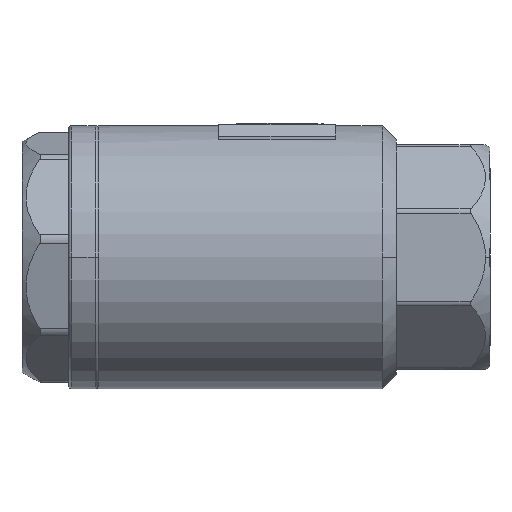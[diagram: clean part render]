
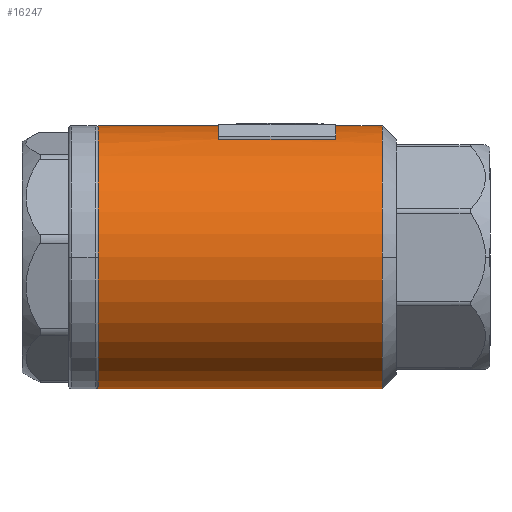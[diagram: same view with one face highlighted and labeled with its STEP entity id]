
A CAD part, front view. The second image highlights one B-rep face of the part: STEP entity #16247.
In plain terms, the highlighted cylindrical face has radius 22.5 mm (diameter 45 mm), a partial arc.
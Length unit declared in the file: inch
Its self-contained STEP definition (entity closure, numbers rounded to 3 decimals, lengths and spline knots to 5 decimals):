
#362 = DIRECTION ( 'NONE',  ( -1., 0., 0. ) ) ;
#480 = AXIS2_PLACEMENT_3D ( 'NONE', #17925, #10908, #13201 ) ;
#542 = ORIENTED_EDGE ( 'NONE', *, *, #10546, .T. ) ;
#936 = CIRCLE ( 'NONE', #22789, 0.88583 ) ;
#1316 = EDGE_CURVE ( 'NONE', #13956, #25042, #24974, .T. ) ;
#1995 = CARTESIAN_POINT ( 'NONE',  ( -1.35769, -0.52888, 0.88583 ) ) ;
#2443 = ORIENTED_EDGE ( 'NONE', *, *, #13747, .T. ) ;
#2459 = CARTESIAN_POINT ( 'NONE',  ( 0.24073, -0.92258, 0.79353 ) ) ;
#2971 = ORIENTED_EDGE ( 'NONE', *, *, #1316, .T. ) ;
#3535 = LINE ( 'NONE', #25676, #19208 ) ;
#3720 = DIRECTION ( 'NONE',  ( 0., 0., 1. ) ) ;
#3777 = CIRCLE ( 'NONE', #26130, 0.88583 ) ;
#3921 = CARTESIAN_POINT ( 'NONE',  ( -2.20685, -0.52888, 0.88583 ) ) ;
#4608 = FACE_OUTER_BOUND ( 'NONE', #13928, .T. ) ;
#4805 = AXIS2_PLACEMENT_3D ( 'NONE', #28535, #16307, #13858 ) ;
#5304 = CARTESIAN_POINT ( 'NONE',  ( 0.55569, -0.52888, 0.88583 ) ) ;
#5584 = LINE ( 'NONE', #22829, #13396 ) ;
#8789 = VERTEX_POINT ( 'NONE', #1995 ) ;
#8960 = EDGE_CURVE ( 'NONE', #8789, #11776, #936, .T. ) ;
#9474 = CARTESIAN_POINT ( 'NONE',  ( -2.20685, -0.52888, 0. ) ) ;
#9660 = ORIENTED_EDGE ( 'NONE', *, *, #8960, .T. ) ;
#10184 = LINE ( 'NONE', #12288, #24535 ) ;
#10546 = EDGE_CURVE ( 'NONE', #12311, #26925, #11874, .T. ) ;
#10908 = DIRECTION ( 'NONE',  ( -1., 0., 0. ) ) ;
#11098 = DIRECTION ( 'NONE',  ( 1., 0., 0. ) ) ;
#11404 = CARTESIAN_POINT ( 'NONE',  ( -0.54667, -0.52888, 0.88583 ) ) ;
#11518 = EDGE_CURVE ( 'NONE', #13233, #19078, #5584, .T. ) ;
#11776 = VERTEX_POINT ( 'NONE', #25752 ) ;
#11874 = CIRCLE ( 'NONE', #480, 0.88583 ) ;
#11945 = AXIS2_PLACEMENT_3D ( 'NONE', #14771, #19496, #29450 ) ;
#12288 = CARTESIAN_POINT ( 'NONE',  ( -2.20685, -0.52888, -0.88583 ) ) ;
#12311 = VERTEX_POINT ( 'NONE', #25679 ) ;
#12645 = CARTESIAN_POINT ( 'NONE',  ( 0.55569, -1.4147, 0. ) ) ;
#13201 = DIRECTION ( 'NONE',  ( 0., 0., 1. ) ) ;
#13233 = VERTEX_POINT ( 'NONE', #5304 ) ;
#13396 = VECTOR ( 'NONE', #362, 39.37008 ) ;
#13747 = EDGE_CURVE ( 'NONE', #17660, #12311, #3535, .T. ) ;
#13858 = DIRECTION ( 'NONE',  ( 0., 0., 1. ) ) ;
#13928 = EDGE_LOOP ( 'NONE', ( #19512, #2971, #25001, #24580, #25464, #2443, #542, #25151, #9660 ) ) ;
#13956 = VERTEX_POINT ( 'NONE', #16678 ) ;
#14091 = DIRECTION ( 'NONE',  ( 1., 0., 0. ) ) ;
#14343 = CYLINDRICAL_SURFACE ( 'NONE', #29743, 0.88583 ) ;
#14771 = CARTESIAN_POINT ( 'NONE',  ( 0.55569, -0.52888, 0. ) ) ;
#16247 = ADVANCED_FACE ( 'NONE', ( #4608 ), #14343, .T. ) ;
#16307 = DIRECTION ( 'NONE',  ( -1., 0., 0. ) ) ;
#16678 = CARTESIAN_POINT ( 'NONE',  ( 0.55569, -0.52888, -0.88583 ) ) ;
#16949 = DIRECTION ( 'NONE',  ( -1., 0., 0. ) ) ;
#17660 = VERTEX_POINT ( 'NONE', #2459 ) ;
#17925 = CARTESIAN_POINT ( 'NONE',  ( -0.54667, -0.52888, 0. ) ) ;
#17955 = CARTESIAN_POINT ( 'NONE',  ( 0.24073, -0.52888, 0. ) ) ;
#19078 = VERTEX_POINT ( 'NONE', #19273 ) ;
#19208 = VECTOR ( 'NONE', #30399, 39.37008 ) ;
#19273 = CARTESIAN_POINT ( 'NONE',  ( 0.24073, -0.52888, 0.88583 ) ) ;
#19496 = DIRECTION ( 'NONE',  ( -1., 0., 0. ) ) ;
#19512 = ORIENTED_EDGE ( 'NONE', *, *, #28437, .F. ) ;
#21005 = LINE ( 'NONE', #3921, #21985 ) ;
#21985 = VECTOR ( 'NONE', #29138, 39.37008 ) ;
#22789 = AXIS2_PLACEMENT_3D ( 'NONE', #25858, #14091, #3720 ) ;
#22829 = CARTESIAN_POINT ( 'NONE',  ( -2.20685, -0.52888, 0.88583 ) ) ;
#24535 = VECTOR ( 'NONE', #30221, 39.37008 ) ;
#24580 = ORIENTED_EDGE ( 'NONE', *, *, #11518, .T. ) ;
#24974 = CIRCLE ( 'NONE', #11945, 0.88583 ) ;
#25001 = ORIENTED_EDGE ( 'NONE', *, *, #31698, .T. ) ;
#25042 = VERTEX_POINT ( 'NONE', #12645 ) ;
#25151 = ORIENTED_EDGE ( 'NONE', *, *, #30217, .T. ) ;
#25464 = ORIENTED_EDGE ( 'NONE', *, *, #29795, .T. ) ;
#25601 = CIRCLE ( 'NONE', #4805, 0.88583 ) ;
#25676 = CARTESIAN_POINT ( 'NONE',  ( -2.20685, -0.92258, 0.79353 ) ) ;
#25679 = CARTESIAN_POINT ( 'NONE',  ( -0.54667, -0.92258, 0.79353 ) ) ;
#25752 = CARTESIAN_POINT ( 'NONE',  ( -1.35769, -0.52888, -0.88583 ) ) ;
#25858 = CARTESIAN_POINT ( 'NONE',  ( -1.35769, -0.52888, 0. ) ) ;
#26130 = AXIS2_PLACEMENT_3D ( 'NONE', #17955, #11098, #30503 ) ;
#26925 = VERTEX_POINT ( 'NONE', #11404 ) ;
#28437 = EDGE_CURVE ( 'NONE', #13956, #11776, #10184, .T. ) ;
#28535 = CARTESIAN_POINT ( 'NONE',  ( 0.55569, -0.52888, 0. ) ) ;
#29138 = DIRECTION ( 'NONE',  ( -1., 0., 0. ) ) ;
#29450 = DIRECTION ( 'NONE',  ( 0., 0., 1. ) ) ;
#29743 = AXIS2_PLACEMENT_3D ( 'NONE', #9474, #16949, #32100 ) ;
#29795 = EDGE_CURVE ( 'NONE', #19078, #17660, #3777, .T. ) ;
#30217 = EDGE_CURVE ( 'NONE', #26925, #8789, #21005, .T. ) ;
#30221 = DIRECTION ( 'NONE',  ( -1., 0., 0. ) ) ;
#30399 = DIRECTION ( 'NONE',  ( -1., 0., 0. ) ) ;
#30503 = DIRECTION ( 'NONE',  ( 0., 0., 1. ) ) ;
#31698 = EDGE_CURVE ( 'NONE', #25042, #13233, #25601, .T. ) ;
#32100 = DIRECTION ( 'NONE',  ( 0., 0., 1. ) ) ;
